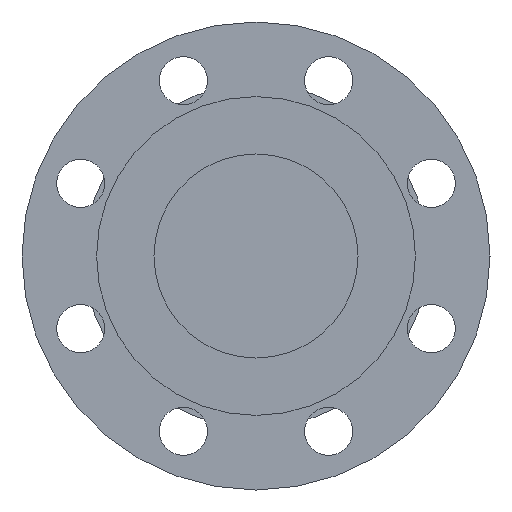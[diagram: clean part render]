
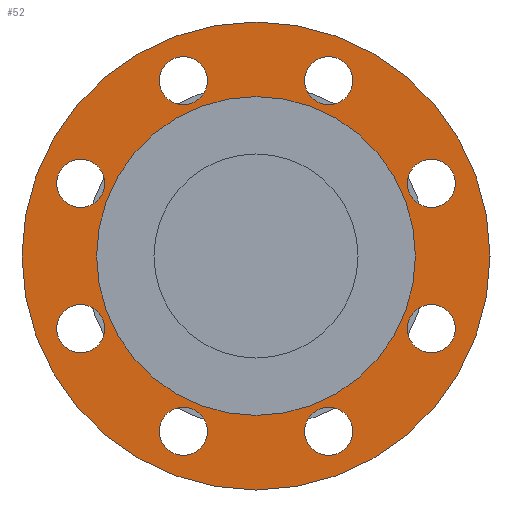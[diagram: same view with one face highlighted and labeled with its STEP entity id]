
A CAD part, left-side view. The second image highlights one B-rep face of the part: STEP entity #52.
In plain terms, the highlighted planar face has unit normal (-1, 0, 0).
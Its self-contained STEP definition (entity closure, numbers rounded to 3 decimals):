
#52=ADVANCED_FACE('',(#247,#248,#249,#250,#251,#252,#253,#254,#255,#256),#246,.T.);
#246=PLANE('',#991);
#247=FACE_OUTER_BOUND('',#992,.T.);
#248=FACE_BOUND('',#993,.T.);
#249=FACE_BOUND('',#994,.T.);
#250=FACE_BOUND('',#995,.T.);
#251=FACE_BOUND('',#996,.T.);
#252=FACE_BOUND('',#997,.T.);
#253=FACE_BOUND('',#998,.T.);
#254=FACE_BOUND('',#999,.T.);
#255=FACE_BOUND('',#1000,.T.);
#256=FACE_BOUND('',#1001,.T.);
#988=CARTESIAN_POINT('',(1.,-170.215,-195.));
#989=DIRECTION('',(-1.,0.,0.));
#990=DIRECTION('',(0.,0.,1.));
#991=AXIS2_PLACEMENT_3D('',#988,#989,#990);
#992=EDGE_LOOP('',(#1409,#1410));
#993=EDGE_LOOP('',(#1411,#1412));
#994=EDGE_LOOP('',(#1413,#1414));
#995=EDGE_LOOP('',(#1415,#1416));
#996=EDGE_LOOP('',(#1417,#1418));
#997=EDGE_LOOP('',(#1419,#1420));
#998=EDGE_LOOP('',(#1421,#1422));
#999=EDGE_LOOP('',(#1423,#1424));
#1000=EDGE_LOOP('',(#1425,#1426));
#1001=EDGE_LOOP('',(#1427,#1428));
#1409=ORIENTED_EDGE('',*,*,#1787,.T.);
#1410=ORIENTED_EDGE('',*,*,#1788,.T.);
#1411=ORIENTED_EDGE('',*,*,#1789,.F.);
#1412=ORIENTED_EDGE('',*,*,#1790,.F.);
#1413=ORIENTED_EDGE('',*,*,#1791,.F.);
#1414=ORIENTED_EDGE('',*,*,#1792,.F.);
#1415=ORIENTED_EDGE('',*,*,#1793,.F.);
#1416=ORIENTED_EDGE('',*,*,#1794,.F.);
#1417=ORIENTED_EDGE('',*,*,#1795,.F.);
#1418=ORIENTED_EDGE('',*,*,#1796,.F.);
#1419=ORIENTED_EDGE('',*,*,#1797,.F.);
#1420=ORIENTED_EDGE('',*,*,#1798,.F.);
#1421=ORIENTED_EDGE('',*,*,#1799,.F.);
#1422=ORIENTED_EDGE('',*,*,#1800,.F.);
#1423=ORIENTED_EDGE('',*,*,#1801,.F.);
#1424=ORIENTED_EDGE('',*,*,#1802,.F.);
#1425=ORIENTED_EDGE('',*,*,#1803,.F.);
#1426=ORIENTED_EDGE('',*,*,#1804,.F.);
#1427=ORIENTED_EDGE('',*,*,#1805,.F.);
#1428=ORIENTED_EDGE('',*,*,#1806,.F.);
#1787=EDGE_CURVE('',#2328,#2329,#2330,.T.);
#1788=EDGE_CURVE('',#2329,#2328,#2336,.T.);
#1789=EDGE_CURVE('',#2342,#2343,#2344,.T.);
#1790=EDGE_CURVE('',#2343,#2342,#2350,.T.);
#1791=EDGE_CURVE('',#2356,#2357,#2358,.T.);
#1792=EDGE_CURVE('',#2357,#2356,#2364,.T.);
#1793=EDGE_CURVE('',#2370,#2371,#2372,.T.);
#1794=EDGE_CURVE('',#2371,#2370,#2378,.T.);
#1795=EDGE_CURVE('',#2384,#2385,#2386,.T.);
#1796=EDGE_CURVE('',#2385,#2384,#2392,.T.);
#1797=EDGE_CURVE('',#2398,#2399,#2400,.T.);
#1798=EDGE_CURVE('',#2399,#2398,#2406,.T.);
#1799=EDGE_CURVE('',#2412,#2413,#2414,.T.);
#1800=EDGE_CURVE('',#2413,#2412,#2420,.T.);
#1801=EDGE_CURVE('',#2426,#2427,#2428,.T.);
#1802=EDGE_CURVE('',#2427,#2426,#2434,.T.);
#1803=EDGE_CURVE('',#2440,#2441,#2442,.T.);
#1804=EDGE_CURVE('',#2441,#2440,#2448,.T.);
#1805=EDGE_CURVE('',#2454,#2455,#2456,.T.);
#1806=EDGE_CURVE('',#2455,#2454,#2462,.T.);
#2328=VERTEX_POINT('',#3475);
#2329=VERTEX_POINT('',#3476);
#2330=CIRCLE('',#3480,92.5);
#2336=CIRCLE('',#3484,92.5);
#2342=VERTEX_POINT('',#3485);
#2343=VERTEX_POINT('',#3486);
#2344=CIRCLE('',#3490,9.5);
#2350=CIRCLE('',#3494,9.5);
#2356=VERTEX_POINT('',#3495);
#2357=VERTEX_POINT('',#3496);
#2358=CIRCLE('',#3500,9.5);
#2364=CIRCLE('',#3504,9.5);
#2370=VERTEX_POINT('',#3505);
#2371=VERTEX_POINT('',#3506);
#2372=CIRCLE('',#3510,9.5);
#2378=CIRCLE('',#3514,9.5);
#2384=VERTEX_POINT('',#3515);
#2385=VERTEX_POINT('',#3516);
#2386=CIRCLE('',#3520,9.5);
#2392=CIRCLE('',#3524,9.5);
#2398=VERTEX_POINT('',#3525);
#2399=VERTEX_POINT('',#3526);
#2400=CIRCLE('',#3530,9.5);
#2406=CIRCLE('',#3534,9.5);
#2412=VERTEX_POINT('',#3535);
#2413=VERTEX_POINT('',#3536);
#2414=CIRCLE('',#3540,9.5);
#2420=CIRCLE('',#3544,9.5);
#2426=VERTEX_POINT('',#3545);
#2427=VERTEX_POINT('',#3546);
#2428=CIRCLE('',#3550,9.5);
#2434=CIRCLE('',#3554,9.5);
#2440=VERTEX_POINT('',#3555);
#2441=VERTEX_POINT('',#3556);
#2442=CIRCLE('',#3560,63.);
#2448=CIRCLE('',#3564,63.);
#2454=VERTEX_POINT('',#3565);
#2455=VERTEX_POINT('',#3566);
#2456=CIRCLE('',#3570,9.5);
#2462=CIRCLE('',#3574,9.5);
#3475=CARTESIAN_POINT('',(1.,0.,92.5));
#3476=CARTESIAN_POINT('',(1.,0.,-92.5));
#3477=CARTESIAN_POINT('',(1.,0.,0.));
#3478=DIRECTION('',(-1.,0.,0.));
#3479=DIRECTION('',(0.,0.,1.));
#3480=AXIS2_PLACEMENT_3D('',#3477,#3478,#3479);
#3481=CARTESIAN_POINT('',(1.,0.,0.));
#3482=DIRECTION('',(-1.,0.,0.));
#3483=DIRECTION('',(0.,0.,1.));
#3484=AXIS2_PLACEMENT_3D('',#3481,#3482,#3483);
#3485=CARTESIAN_POINT('',(1.,-28.701,78.791));
#3486=CARTESIAN_POINT('',(1.,-28.701,59.791));
#3487=CARTESIAN_POINT('',(1.,-28.701,69.291));
#3488=DIRECTION('',(-1.,0.,0.));
#3489=DIRECTION('',(0.,0.,-1.));
#3490=AXIS2_PLACEMENT_3D('',#3487,#3488,#3489);
#3491=CARTESIAN_POINT('',(1.,-28.701,69.291));
#3492=DIRECTION('',(-1.,0.,0.));
#3493=DIRECTION('',(0.,0.,-1.));
#3494=AXIS2_PLACEMENT_3D('',#3491,#3492,#3493);
#3495=CARTESIAN_POINT('',(1.,-69.291,38.201));
#3496=CARTESIAN_POINT('',(1.,-69.291,19.201));
#3497=CARTESIAN_POINT('',(1.,-69.291,28.701));
#3498=DIRECTION('',(-1.,0.,0.));
#3499=DIRECTION('',(0.,0.,-1.));
#3500=AXIS2_PLACEMENT_3D('',#3497,#3498,#3499);
#3501=CARTESIAN_POINT('',(1.,-69.291,28.701));
#3502=DIRECTION('',(-1.,0.,0.));
#3503=DIRECTION('',(0.,0.,-1.));
#3504=AXIS2_PLACEMENT_3D('',#3501,#3502,#3503);
#3505=CARTESIAN_POINT('',(1.,-69.291,-19.201));
#3506=CARTESIAN_POINT('',(1.,-69.291,-38.201));
#3507=CARTESIAN_POINT('',(1.,-69.291,-28.701));
#3508=DIRECTION('',(-1.,0.,0.));
#3509=DIRECTION('',(0.,0.,-1.));
#3510=AXIS2_PLACEMENT_3D('',#3507,#3508,#3509);
#3511=CARTESIAN_POINT('',(1.,-69.291,-28.701));
#3512=DIRECTION('',(-1.,0.,0.));
#3513=DIRECTION('',(0.,0.,-1.));
#3514=AXIS2_PLACEMENT_3D('',#3511,#3512,#3513);
#3515=CARTESIAN_POINT('',(1.,-28.701,-59.791));
#3516=CARTESIAN_POINT('',(1.,-28.701,-78.791));
#3517=CARTESIAN_POINT('',(1.,-28.701,-69.291));
#3518=DIRECTION('',(-1.,0.,0.));
#3519=DIRECTION('',(0.,0.,-1.));
#3520=AXIS2_PLACEMENT_3D('',#3517,#3518,#3519);
#3521=CARTESIAN_POINT('',(1.,-28.701,-69.291));
#3522=DIRECTION('',(-1.,0.,0.));
#3523=DIRECTION('',(0.,0.,-1.));
#3524=AXIS2_PLACEMENT_3D('',#3521,#3522,#3523);
#3525=CARTESIAN_POINT('',(1.,28.701,-59.791));
#3526=CARTESIAN_POINT('',(1.,28.701,-78.791));
#3527=CARTESIAN_POINT('',(1.,28.701,-69.291));
#3528=DIRECTION('',(-1.,0.,0.));
#3529=DIRECTION('',(0.,0.,-1.));
#3530=AXIS2_PLACEMENT_3D('',#3527,#3528,#3529);
#3531=CARTESIAN_POINT('',(1.,28.701,-69.291));
#3532=DIRECTION('',(-1.,0.,0.));
#3533=DIRECTION('',(0.,0.,-1.));
#3534=AXIS2_PLACEMENT_3D('',#3531,#3532,#3533);
#3535=CARTESIAN_POINT('',(1.,69.291,-19.201));
#3536=CARTESIAN_POINT('',(1.,69.291,-38.201));
#3537=CARTESIAN_POINT('',(1.,69.291,-28.701));
#3538=DIRECTION('',(-1.,0.,0.));
#3539=DIRECTION('',(0.,0.,-1.));
#3540=AXIS2_PLACEMENT_3D('',#3537,#3538,#3539);
#3541=CARTESIAN_POINT('',(1.,69.291,-28.701));
#3542=DIRECTION('',(-1.,0.,0.));
#3543=DIRECTION('',(0.,0.,-1.));
#3544=AXIS2_PLACEMENT_3D('',#3541,#3542,#3543);
#3545=CARTESIAN_POINT('',(1.,69.291,38.201));
#3546=CARTESIAN_POINT('',(1.,69.291,19.201));
#3547=CARTESIAN_POINT('',(1.,69.291,28.701));
#3548=DIRECTION('',(-1.,0.,0.));
#3549=DIRECTION('',(0.,0.,-1.));
#3550=AXIS2_PLACEMENT_3D('',#3547,#3548,#3549);
#3551=CARTESIAN_POINT('',(1.,69.291,28.701));
#3552=DIRECTION('',(-1.,0.,0.));
#3553=DIRECTION('',(0.,0.,-1.));
#3554=AXIS2_PLACEMENT_3D('',#3551,#3552,#3553);
#3555=CARTESIAN_POINT('',(1.,0.,-63.));
#3556=CARTESIAN_POINT('',(1.,0.,63.));
#3557=CARTESIAN_POINT('',(1.,0.,0.));
#3558=DIRECTION('',(-1.,0.,0.));
#3559=DIRECTION('',(0.,0.,1.));
#3560=AXIS2_PLACEMENT_3D('',#3557,#3558,#3559);
#3561=CARTESIAN_POINT('',(1.,0.,0.));
#3562=DIRECTION('',(-1.,0.,0.));
#3563=DIRECTION('',(0.,0.,1.));
#3564=AXIS2_PLACEMENT_3D('',#3561,#3562,#3563);
#3565=CARTESIAN_POINT('',(1.,28.701,78.791));
#3566=CARTESIAN_POINT('',(1.,28.701,59.791));
#3567=CARTESIAN_POINT('',(1.,28.701,69.291));
#3568=DIRECTION('',(-1.,0.,0.));
#3569=DIRECTION('',(0.,0.,-1.));
#3570=AXIS2_PLACEMENT_3D('',#3567,#3568,#3569);
#3571=CARTESIAN_POINT('',(1.,28.701,69.291));
#3572=DIRECTION('',(-1.,0.,0.));
#3573=DIRECTION('',(0.,0.,-1.));
#3574=AXIS2_PLACEMENT_3D('',#3571,#3572,#3573);
